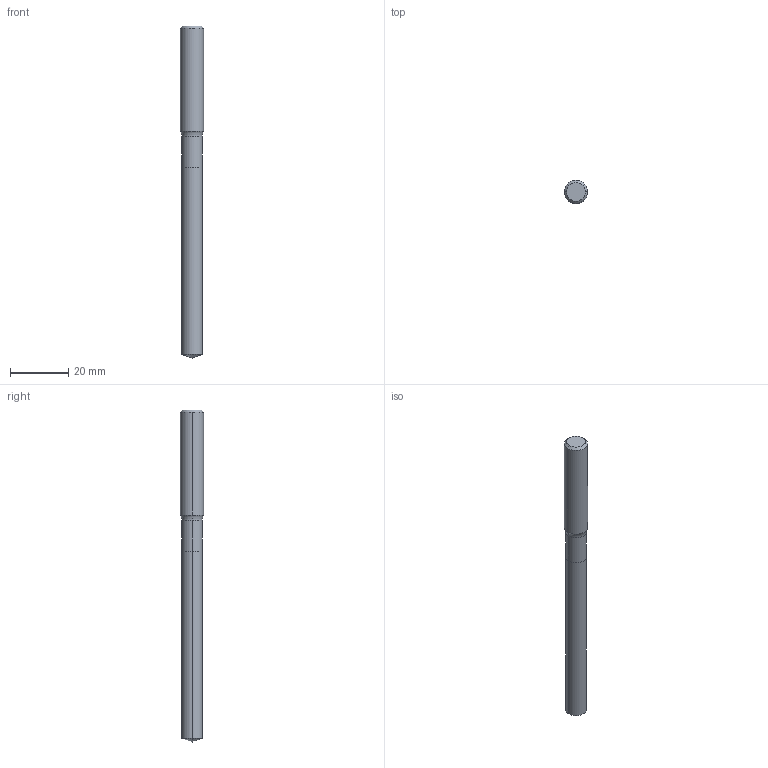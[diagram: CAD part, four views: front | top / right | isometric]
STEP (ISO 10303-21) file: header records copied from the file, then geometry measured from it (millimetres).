
FILE_DESCRIPTION (( 'STEP AP214' ), '1' );
FILE_NAME ('754.070.00_3D-model.step', '2023-08-21T12:03:07', ( '' ), ( '' ), 'SwSTEP 2.0', 'SolidWorks 2020', '' );
FILE_SCHEMA (( 'AUTOMOTIVE_DESIGN' ));
Length unit declared in the file: millimetre
Products named in the file (3): CUT-3D^Baugr101; NOCUT-3D^Baugr101; 754.070.00_3D-model
Assembly tree (2 placements, depth 2):
  754.070.00_3D-model
    CUT-3D^Baugr101
    NOCUT-3D^Baugr101
Bounding box: 8 x 8 x 114 mm (x, y, z)
Volume: 4779.1 mm3; surface area: 2751.9 mm2
Topology: 2 solids, 2 shells, 15 faces, 28 edges, 15 vertices
Faces by surface type: cylinder 6, cone 4, plane 3, torus 2
Entity records: 482 total; most frequent: DIRECTION 88, CARTESIAN_POINT 64, ORIENTED_EDGE 52, AXIS2_PLACEMENT_3D 39, EDGE_CURVE 26, CIRCLE 16, VERTEX_POINT 15, EDGE_LOOP 15
